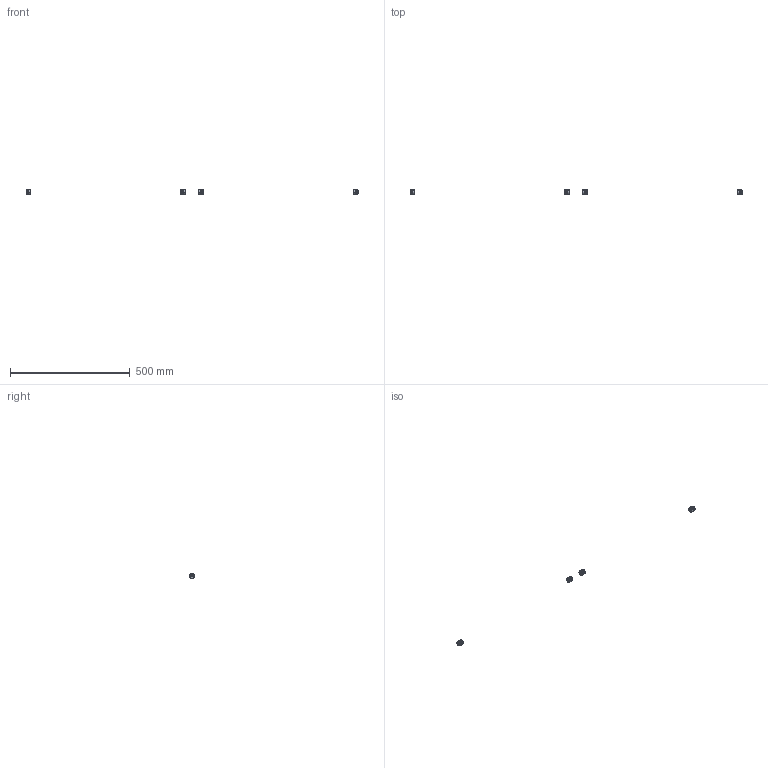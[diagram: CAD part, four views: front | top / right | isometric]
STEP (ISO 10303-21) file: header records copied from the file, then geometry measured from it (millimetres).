
FILE_DESCRIPTION(/* description */ (''),/* implementation_level */ '2;1');
FILE_NAME(/* name */ 'Y-ACF4~1',/* time_stamp */ '2014-02-14T19:40:57+01:00',/* author */ (''),/* organization */ (''),/* preprocessor_version */ 'ST-DEVELOPER v14',/* originating_system */ '',/* authorisation */ '');
FILE_SCHEMA (('AUTOMOTIVE_DESIGN'));
Length unit declared in the file: millimetre
Products named in the file (2): Document; shaft coupling MCKSC20-6-6
Assembly tree (2 placements, depth 2):
  Document
    shaft coupling MCKSC20-6-6  x2
Bounding box: 1388 x 20 x 20 mm (x, y, z)
Surface area: 14695.1 mm2 (no closed solid volume)
Topology: 0 solids, 576 shells, 576 faces, 1904 edges, 1888 vertices
Faces by surface type: bspline 292, plane 284
Entity records: 40338 total; most frequent: CARTESIAN_POINT 23102, B_SPLINE_CURVE_WITH_KNOTS 1827, ORIENTED_EDGE 1416, PCURVE 1416, DEFINITIONAL_REPRESENTATION 1416, SURFACE_CURVE 1416, EDGE_CURVE 1416, VERTEX_POINT 1416
